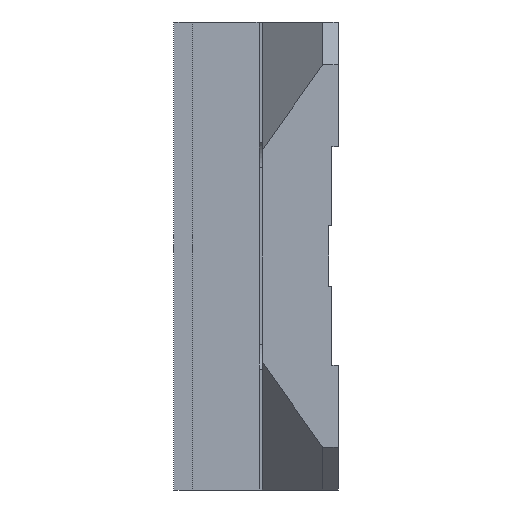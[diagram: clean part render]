
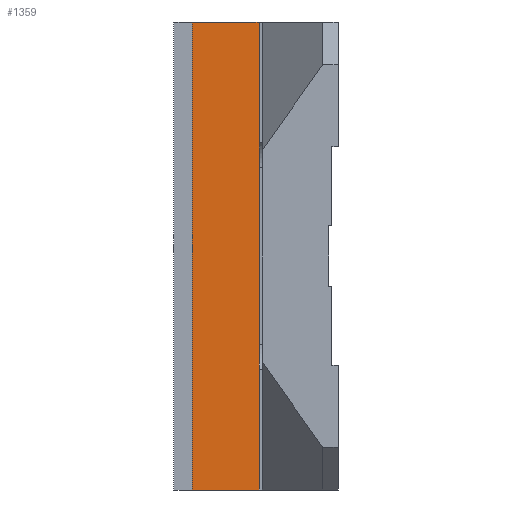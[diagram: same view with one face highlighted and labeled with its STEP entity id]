
A CAD part, left-side view. The second image highlights one B-rep face of the part: STEP entity #1359.
In plain terms, the highlighted planar face has unit normal (-1, 0, 0) as drawn and (1, 0, 0) by its records, which use the part's own axes.
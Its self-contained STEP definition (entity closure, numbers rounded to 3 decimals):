
#43 = EDGE_CURVE ( 'NONE', #2641, #2340, #2802, .T. ) ;
#69 = CARTESIAN_POINT ( 'NONE',  ( 15., 13., -38.5 ) ) ;
#116 = DIRECTION ( 'NONE',  ( 0., 0., -1. ) ) ;
#127 = CARTESIAN_POINT ( 'NONE',  ( 15., 24., 38.5 ) ) ;
#186 = VECTOR ( 'NONE', #116, 1000. ) ;
#187 = CARTESIAN_POINT ( 'NONE',  ( 15., 13., 38.5 ) ) ;
#234 = CARTESIAN_POINT ( 'NONE',  ( 15., 24., 38.5 ) ) ;
#456 = FACE_OUTER_BOUND ( 'NONE', #2791, .T. ) ;
#551 = VERTEX_POINT ( 'NONE', #1173 ) ;
#850 = VERTEX_POINT ( 'NONE', #1958 ) ;
#963 = CARTESIAN_POINT ( 'NONE',  ( 15., 24., 38.5 ) ) ;
#1009 = EDGE_CURVE ( 'NONE', #551, #850, #1225, .T. ) ;
#1173 = CARTESIAN_POINT ( 'NONE',  ( 15., 24., 38.5 ) ) ;
#1225 = LINE ( 'NONE', #127, #186 ) ;
#1333 = ORIENTED_EDGE ( 'NONE', *, *, #1009, .F. ) ;
#1359 = ADVANCED_FACE ( 'NONE', ( #456 ), #2228, .F. ) ;
#1549 = DIRECTION ( 'NONE',  ( -1., 0., 0. ) ) ;
#1625 = CARTESIAN_POINT ( 'NONE',  ( 15., 24., -38.5 ) ) ;
#1773 = DIRECTION ( 'NONE',  ( 0., -1., 0. ) ) ;
#1837 = ORIENTED_EDGE ( 'NONE', *, *, #1954, .F. ) ;
#1953 = EDGE_CURVE ( 'NONE', #2340, #850, #2018, .T. ) ;
#1954 = EDGE_CURVE ( 'NONE', #2641, #551, #2701, .T. ) ;
#1958 = CARTESIAN_POINT ( 'NONE',  ( 15., 24., -38.5 ) ) ;
#1962 = CARTESIAN_POINT ( 'NONE',  ( 15., 13., 38.5 ) ) ;
#1992 = DIRECTION ( 'NONE',  ( 0., 1., 0. ) ) ;
#1996 = ORIENTED_EDGE ( 'NONE', *, *, #43, .T. ) ;
#2018 = LINE ( 'NONE', #1625, #2822 ) ;
#2031 = AXIS2_PLACEMENT_3D ( 'NONE', #234, #1549, #1773 ) ;
#2043 = ORIENTED_EDGE ( 'NONE', *, *, #1953, .T. ) ;
#2228 = PLANE ( 'NONE',  #2031 ) ;
#2259 = DIRECTION ( 'NONE',  ( 0., 1., 0. ) ) ;
#2340 = VERTEX_POINT ( 'NONE', #69 ) ;
#2401 = DIRECTION ( 'NONE',  ( 0., 0., -1. ) ) ;
#2551 = VECTOR ( 'NONE', #2401, 1000. ) ;
#2638 = VECTOR ( 'NONE', #1992, 1000. ) ;
#2641 = VERTEX_POINT ( 'NONE', #187 ) ;
#2701 = LINE ( 'NONE', #963, #2638 ) ;
#2791 = EDGE_LOOP ( 'NONE', ( #2043, #1333, #1837, #1996 ) ) ;
#2802 = LINE ( 'NONE', #1962, #2551 ) ;
#2822 = VECTOR ( 'NONE', #2259, 1000. ) ;
